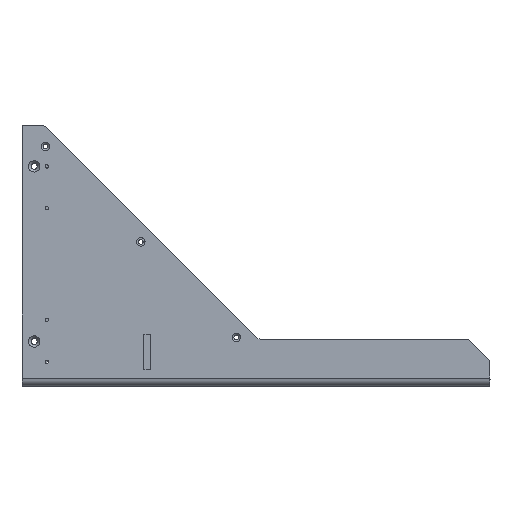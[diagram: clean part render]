
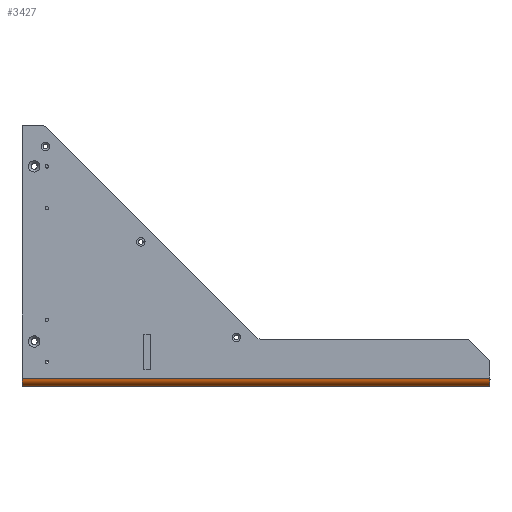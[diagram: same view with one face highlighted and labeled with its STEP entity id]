
A CAD part, left-side view. The second image highlights one B-rep face of the part: STEP entity #3427.
In plain terms, the highlighted cylindrical face has radius 6 mm (diameter 12 mm), a partial arc.
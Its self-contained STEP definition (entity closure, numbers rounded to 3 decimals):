
#481=FACE_OUTER_BOUND('',#690,.T.);
#690=EDGE_LOOP('',(#2966,#2967,#2968,#2969));
#1016=LINE('',#5781,#1246);
#1022=LINE('',#5795,#1252);
#1246=VECTOR('',#4840,10.);
#1252=VECTOR('',#4852,10.);
#1501=CIRCLE('',#3846,6.);
#1502=CIRCLE('',#3847,6.);
#1776=VERTEX_POINT('',#5778);
#1777=VERTEX_POINT('',#5780);
#1781=VERTEX_POINT('',#5792);
#1782=VERTEX_POINT('',#5794);
#2216=EDGE_CURVE('',#1776,#1777,#1016,.T.);
#2222=EDGE_CURVE('',#1776,#1781,#1501,.T.);
#2223=EDGE_CURVE('',#1782,#1781,#1022,.T.);
#2224=EDGE_CURVE('',#1782,#1777,#1502,.T.);
#2966=ORIENTED_EDGE('',*,*,#2216,.F.);
#2967=ORIENTED_EDGE('',*,*,#2222,.T.);
#2968=ORIENTED_EDGE('',*,*,#2223,.F.);
#2969=ORIENTED_EDGE('',*,*,#2224,.T.);
#3263=CYLINDRICAL_SURFACE('',#3845,6.);
#3427=ADVANCED_FACE('',(#481),#3263,.T.);
#3845=AXIS2_PLACEMENT_3D('',#5791,#4848,#4849);
#3846=AXIS2_PLACEMENT_3D('',#5793,#4850,#4851);
#3847=AXIS2_PLACEMENT_3D('',#5796,#4853,#4854);
#4840=DIRECTION('',(0.,-1.,0.));
#4848=DIRECTION('center_axis',(0.,1.,0.));
#4849=DIRECTION('ref_axis',(0.,0.,-1.));
#4850=DIRECTION('center_axis',(0.,-1.,0.));
#4851=DIRECTION('ref_axis',(-1.,0.,0.));
#4852=DIRECTION('',(0.,1.,0.));
#4853=DIRECTION('center_axis',(0.,1.,0.));
#4854=DIRECTION('ref_axis',(0.,0.,-1.));
#5778=CARTESIAN_POINT('',(-265.35,200.936,6.));
#5780=CARTESIAN_POINT('',(-265.35,-145.699,6.));
#5781=CARTESIAN_POINT('',(-265.35,27.618,6.));
#5791=CARTESIAN_POINT('Origin',(-259.35,27.618,6.));
#5792=CARTESIAN_POINT('',(-259.35,200.936,0.));
#5793=CARTESIAN_POINT('Origin',(-259.35,200.936,6.));
#5794=CARTESIAN_POINT('',(-259.35,-145.699,0.));
#5795=CARTESIAN_POINT('',(-259.35,114.277,0.));
#5796=CARTESIAN_POINT('Origin',(-259.35,-145.699,6.));
